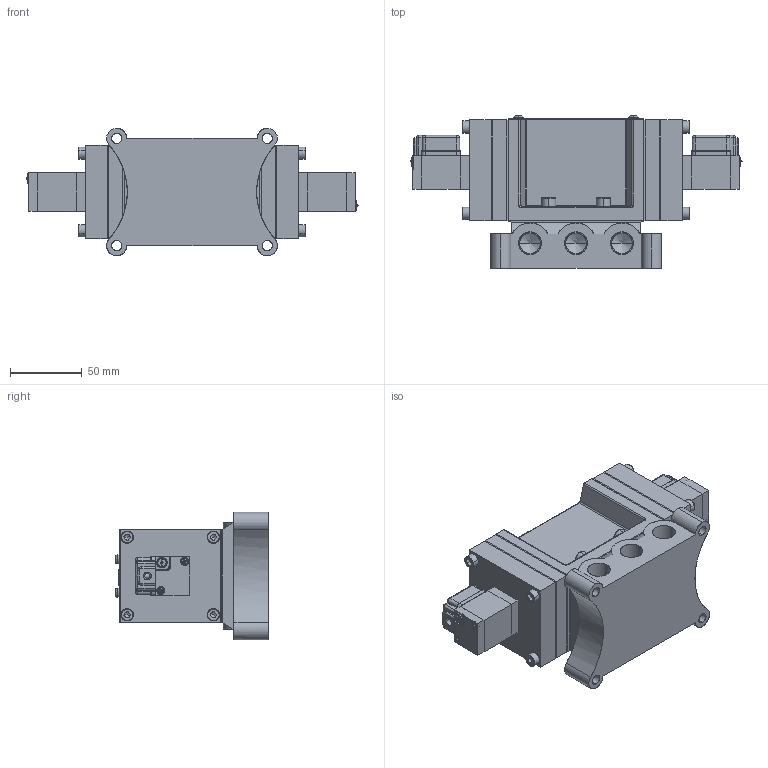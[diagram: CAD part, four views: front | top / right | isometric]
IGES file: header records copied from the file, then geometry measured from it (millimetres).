
Start section: SolidWorks IGES file using analytic representation for surfaces
Global section: file name: D:\Custom\3D繪製\PM\PM10\PMD3410#-03-#G#.IGS,1; native system: 5HSolidWorks 2014; preprocessor: SolidWorks 2014; author: Chieh_Lu; date: 150912.104618; units: millimetre
Bounding box: 230.95 x 106.35 x 88.61 mm (x, y, z)
Surface area: 214424.3 mm2 (no closed solid volume)
Topology: 0 solids, 0 shells, 1198 faces, 13794 edges, 13738 vertices
Faces by surface type: bspline 716, revolution 482
